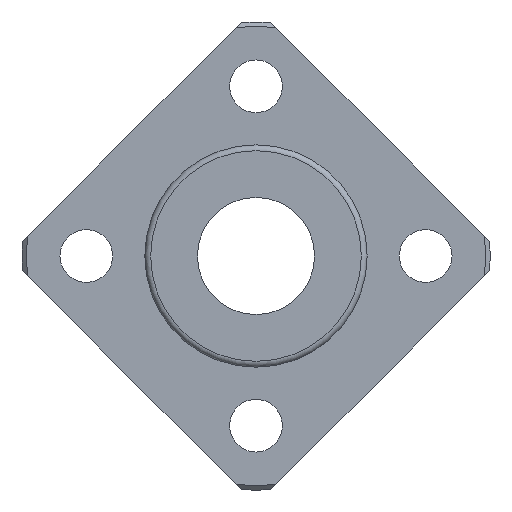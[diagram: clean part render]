
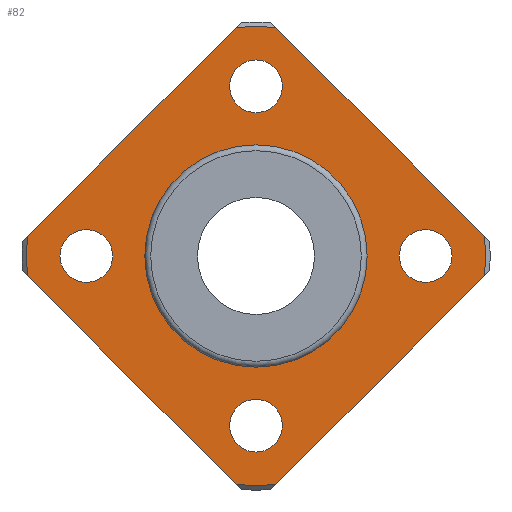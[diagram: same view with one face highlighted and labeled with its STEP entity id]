
A CAD part, left-side view. The second image highlights one B-rep face of the part: STEP entity #82.
In plain terms, the highlighted planar face has unit normal (-1, 0, 0).
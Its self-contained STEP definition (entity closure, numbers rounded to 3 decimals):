
#82=ADVANCED_FACE('',(#134,#135,#136,#137,#138,#139),#140,.T.);
#134=FACE_BOUND('',#249,.T.);
#135=FACE_BOUND('',#250,.T.);
#136=FACE_BOUND('',#251,.T.);
#137=FACE_BOUND('',#252,.T.);
#138=FACE_BOUND('',#253,.T.);
#139=FACE_OUTER_BOUND('',#254,.T.);
#140=PLANE('',#255);
#249=EDGE_LOOP('',(#402));
#250=EDGE_LOOP('',(#403));
#251=EDGE_LOOP('',(#404));
#252=EDGE_LOOP('',(#405));
#253=EDGE_LOOP('',(#406));
#254=EDGE_LOOP('',(#407,#408,#409,#410,#411,#412,#413,#414));
#255=AXIS2_PLACEMENT_3D('',#415,#416,#417);
#402=ORIENTED_EDGE('',*,*,#654,.F.);
#403=ORIENTED_EDGE('',*,*,#655,.T.);
#404=ORIENTED_EDGE('',*,*,#656,.T.);
#405=ORIENTED_EDGE('',*,*,#657,.T.);
#406=ORIENTED_EDGE('',*,*,#658,.T.);
#407=ORIENTED_EDGE('',*,*,#631,.T.);
#408=ORIENTED_EDGE('',*,*,#622,.T.);
#409=ORIENTED_EDGE('',*,*,#659,.T.);
#410=ORIENTED_EDGE('',*,*,#660,.T.);
#411=ORIENTED_EDGE('',*,*,#661,.T.);
#412=ORIENTED_EDGE('',*,*,#633,.T.);
#413=ORIENTED_EDGE('',*,*,#662,.T.);
#414=ORIENTED_EDGE('',*,*,#641,.T.);
#415=CARTESIAN_POINT('',(-6.0,14.425,0.0));
#416=DIRECTION('',(-1.0,0.0,0.));
#417=DIRECTION('',(0.,0.0,1.0));
#622=EDGE_CURVE('',#698,#699,#700,.T.);
#631=EDGE_CURVE('',#716,#698,#717,.T.);
#633=EDGE_CURVE('',#719,#720,#721,.T.);
#641=EDGE_CURVE('',#735,#716,#736,.T.);
#654=EDGE_CURVE('',#760,#760,#761,.T.);
#655=EDGE_CURVE('',#762,#762,#763,.T.);
#656=EDGE_CURVE('',#764,#764,#765,.T.);
#657=EDGE_CURVE('',#766,#766,#767,.T.);
#658=EDGE_CURVE('',#768,#768,#769,.T.);
#659=EDGE_CURVE('',#699,#770,#771,.T.);
#660=EDGE_CURVE('',#770,#772,#773,.T.);
#661=EDGE_CURVE('',#772,#719,#774,.T.);
#662=EDGE_CURVE('',#720,#735,#775,.T.);
#698=VERTEX_POINT('',#834);
#699=VERTEX_POINT('',#835);
#700=LINE('',#836,#837);
#716=VERTEX_POINT('',#868);
#717=CIRCLE('',#869,19.6);
#719=VERTEX_POINT('',#874);
#720=VERTEX_POINT('',#875);
#721=LINE('',#876,#877);
#735=VERTEX_POINT('',#906);
#736=LINE('',#907,#908);
#760=VERTEX_POINT('',#944);
#761=CIRCLE('',#945,9.25);
#762=VERTEX_POINT('',#946);
#763=CIRCLE('',#947,2.25);
#764=VERTEX_POINT('',#948);
#765=CIRCLE('',#949,2.25);
#766=VERTEX_POINT('',#950);
#767=CIRCLE('',#951,2.25);
#768=VERTEX_POINT('',#952);
#769=CIRCLE('',#953,2.25);
#770=VERTEX_POINT('',#954);
#771=CIRCLE('',#955,19.6);
#772=VERTEX_POINT('',#956);
#773=LINE('',#957,#958);
#774=CIRCLE('',#959,19.6);
#775=CIRCLE('',#960,19.6);
#834=CARTESIAN_POINT('',(-6.0,-19.527,1.686));
#835=CARTESIAN_POINT('',(-6.0,-1.686,19.527));
#836=CARTESIAN_POINT('',(-6.0,-3.394,17.819));
#837=VECTOR('',#1034,1.0);
#868=CARTESIAN_POINT('',(-6.0,-19.527,-1.686));
#869=AXIS2_PLACEMENT_3D('',#1041,#1042,#1043);
#874=CARTESIAN_POINT('',(-6.0,19.527,-1.686));
#875=CARTESIAN_POINT('',(-6.0,1.686,-19.527));
#876=CARTESIAN_POINT('',(-6.0,17.819,-3.394));
#877=VECTOR('',#1044,1.0);
#906=CARTESIAN_POINT('',(-6.0,-1.686,-19.527));
#907=CARTESIAN_POINT('',(-6.0,-3.394,-17.819));
#908=VECTOR('',#1048,1.0);
#944=CARTESIAN_POINT('',(-6.0,9.25,0.0));
#945=AXIS2_PLACEMENT_3D('',#1070,#1071,#1072);
#946=CARTESIAN_POINT('',(-6.0,14.5,2.25));
#947=AXIS2_PLACEMENT_3D('',#1073,#1074,#1075);
#948=CARTESIAN_POINT('',(-6.0,-14.5,2.25));
#949=AXIS2_PLACEMENT_3D('',#1076,#1077,#1078);
#950=CARTESIAN_POINT('',(-6.0,0.0,16.75));
#951=AXIS2_PLACEMENT_3D('',#1079,#1080,#1081);
#952=CARTESIAN_POINT('',(-6.,0.0,-12.25));
#953=AXIS2_PLACEMENT_3D('',#1082,#1083,#1084);
#954=CARTESIAN_POINT('',(-6.0,1.686,19.527));
#955=AXIS2_PLACEMENT_3D('',#1085,#1086,#1087);
#956=CARTESIAN_POINT('',(-6.0,19.527,1.686));
#957=CARTESIAN_POINT('',(-6.0,17.819,3.394));
#958=VECTOR('',#1088,1.0);
#959=AXIS2_PLACEMENT_3D('',#1089,#1090,#1091);
#960=AXIS2_PLACEMENT_3D('',#1092,#1093,#1094);
#1034=DIRECTION('',(0.,0.707,0.707));
#1041=CARTESIAN_POINT('',(-6.0,0.0,0.0));
#1042=DIRECTION('',(-1.0,0.0,0.));
#1043=DIRECTION('',(0.0,1.0,0.0));
#1044=DIRECTION('',(0.,-0.707,-0.707));
#1048=DIRECTION('',(0.,-0.707,0.707));
#1070=CARTESIAN_POINT('',(-6.0,0.0,0.0));
#1071=DIRECTION('',(-1.0,0.0,0.));
#1072=DIRECTION('',(0.0,1.0,0.0));
#1073=CARTESIAN_POINT('',(-6.0,14.5,0.0));
#1074=DIRECTION('',(1.0,0.0,0.));
#1075=DIRECTION('',(0.,0.0,-1.0));
#1076=CARTESIAN_POINT('',(-6.0,-14.5,0.0));
#1077=DIRECTION('',(1.0,0.0,0.));
#1078=DIRECTION('',(0.,0.0,-1.0));
#1079=CARTESIAN_POINT('',(-6.0,0.0,14.5));
#1080=DIRECTION('',(1.0,0.0,0.));
#1081=DIRECTION('',(0.,0.0,-1.0));
#1082=CARTESIAN_POINT('',(-6.,0.0,-14.5));
#1083=DIRECTION('',(1.0,0.0,0.));
#1084=DIRECTION('',(0.,0.0,-1.0));
#1085=CARTESIAN_POINT('',(-6.0,0.0,0.0));
#1086=DIRECTION('',(-1.0,0.0,0.));
#1087=DIRECTION('',(0.0,1.0,0.0));
#1088=DIRECTION('',(0.,0.707,-0.707));
#1089=CARTESIAN_POINT('',(-6.0,0.0,0.0));
#1090=DIRECTION('',(-1.0,0.0,0.));
#1091=DIRECTION('',(0.0,1.0,0.0));
#1092=CARTESIAN_POINT('',(-6.0,0.0,0.0));
#1093=DIRECTION('',(-1.0,0.0,0.));
#1094=DIRECTION('',(0.0,1.0,0.0));
